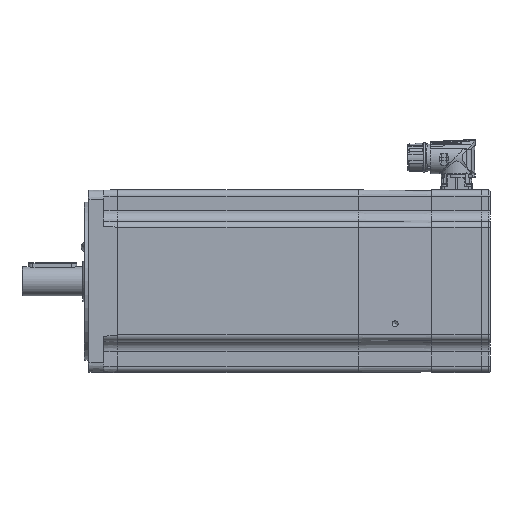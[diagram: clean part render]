
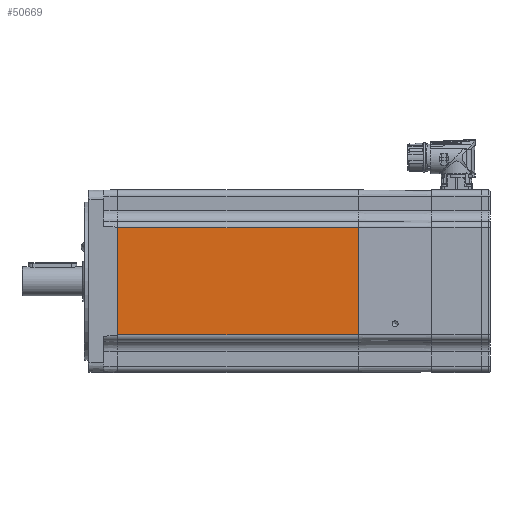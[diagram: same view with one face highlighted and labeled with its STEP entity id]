
A CAD part, left-side view. The second image highlights one B-rep face of the part: STEP entity #50669.
In plain terms, the highlighted planar face has unit normal (-1, 0, 0) as drawn and (0, -1, 0) by its records, which use the part's own axes.
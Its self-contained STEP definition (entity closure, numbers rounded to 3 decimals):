
#2975=LINE('',#82911,#5032);
#2996=LINE('',#83009,#5053);
#2999=LINE('',#83042,#5056);
#3000=LINE('',#83043,#5057);
#5032=VECTOR('',#62210,1000.);
#5053=VECTOR('',#62287,1000.);
#5056=VECTOR('',#62326,1000.);
#5057=VECTOR('',#62327,1000.);
#6006=PLANE('',#54074);
#15933=ORIENTED_EDGE('',*,*,#21924,.F.);
#15934=ORIENTED_EDGE('',*,*,#21985,.T.);
#15935=ORIENTED_EDGE('',*,*,#21972,.T.);
#15936=ORIENTED_EDGE('',*,*,#21986,.T.);
#21924=EDGE_CURVE('',#25716,#25717,#2975,.T.);
#21972=EDGE_CURVE('',#25765,#25764,#2996,.T.);
#21985=EDGE_CURVE('',#25716,#25765,#2999,.T.);
#21986=EDGE_CURVE('',#25764,#25717,#3000,.F.);
#25716=VERTEX_POINT('',#82912);
#25717=VERTEX_POINT('',#82913);
#25764=VERTEX_POINT('',#83008);
#25765=VERTEX_POINT('',#83010);
#29991=EDGE_LOOP('',(#15933,#15934,#15935,#15936));
#32895=FACE_BOUND('',#29991,.T.);
#50669=ADVANCED_FACE('',(#32895),#6006,.T.);
#54074=AXIS2_PLACEMENT_3D('',#83041,#62324,#62325);
#62210=DIRECTION('',(0.,0.,-1.));
#62287=DIRECTION('',(0.,0.,-1.));
#62324=DIRECTION('',(0.,-1.,0.));
#62325=DIRECTION('',(0.,0.,-1.));
#62326=DIRECTION('',(-1.,0.,0.));
#62327=DIRECTION('',(-1.,0.,0.));
#82911=CARTESIAN_POINT('',(-1.,-75.,75.));
#82912=CARTESIAN_POINT('',(-1.,-75.,44.));
#82913=CARTESIAN_POINT('',(-1.,-75.,-44.));
#83008=CARTESIAN_POINT('',(-199.,-75.,-44.));
#83009=CARTESIAN_POINT('',(-199.,-75.,75.));
#83010=CARTESIAN_POINT('',(-199.,-75.,44.));
#83041=CARTESIAN_POINT('',(-300.,-75.,75.));
#83042=CARTESIAN_POINT('',(-300.,-75.,44.));
#83043=CARTESIAN_POINT('',(0.,-75.,-44.));
